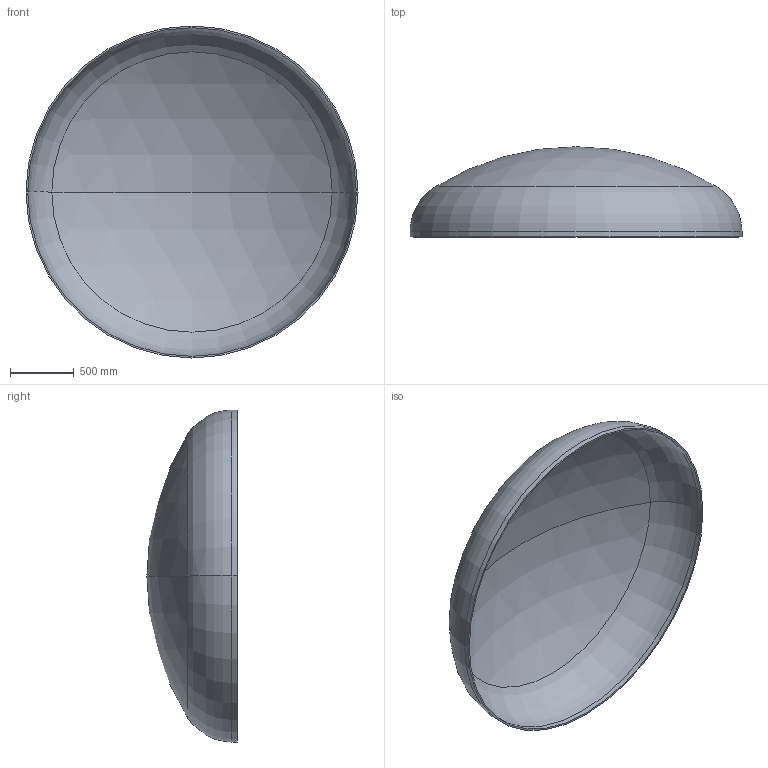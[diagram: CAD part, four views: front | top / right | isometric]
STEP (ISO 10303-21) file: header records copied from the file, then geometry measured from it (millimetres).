
FILE_DESCRIPTION (( 'STEP AP203' ), '1' );
FILE_NAME ('DIN 28013 Korbbogenform_-_Boden DIN 28013 - 2600 x 40 - I - s=13.step', '2016-07-01T15:54:35', ( '' ), ( '' ), 'SwSTEP 2.0', 'SolidWorks 2013', '' );
FILE_SCHEMA (( 'CONFIG_CONTROL_DESIGN' ));
Length unit declared in the file: millimetre
Products named in the file (1): DIN 28013 Korbbogenform_-_Boden DIN 28013 - 2600 x 40 - I - s=13
Bounding box: 2600 x 706.24 x 2600 mm (x, y, z)
Volume: 99174071.7 mm3; surface area: 15363552.3 mm2
Topology: 1 solids, 1 shells, 13 faces, 24 edges, 14 vertices
Faces by surface type: torus 4, cylinder 4, sphere 4, plane 1
Entity records: 407 total; most frequent: DIRECTION 72, CARTESIAN_POINT 52, ORIENTED_EDGE 48, AXIS2_PLACEMENT_3D 34, EDGE_CURVE 24, CIRCLE 20, VERTEX_POINT 14, EDGE_LOOP 14
